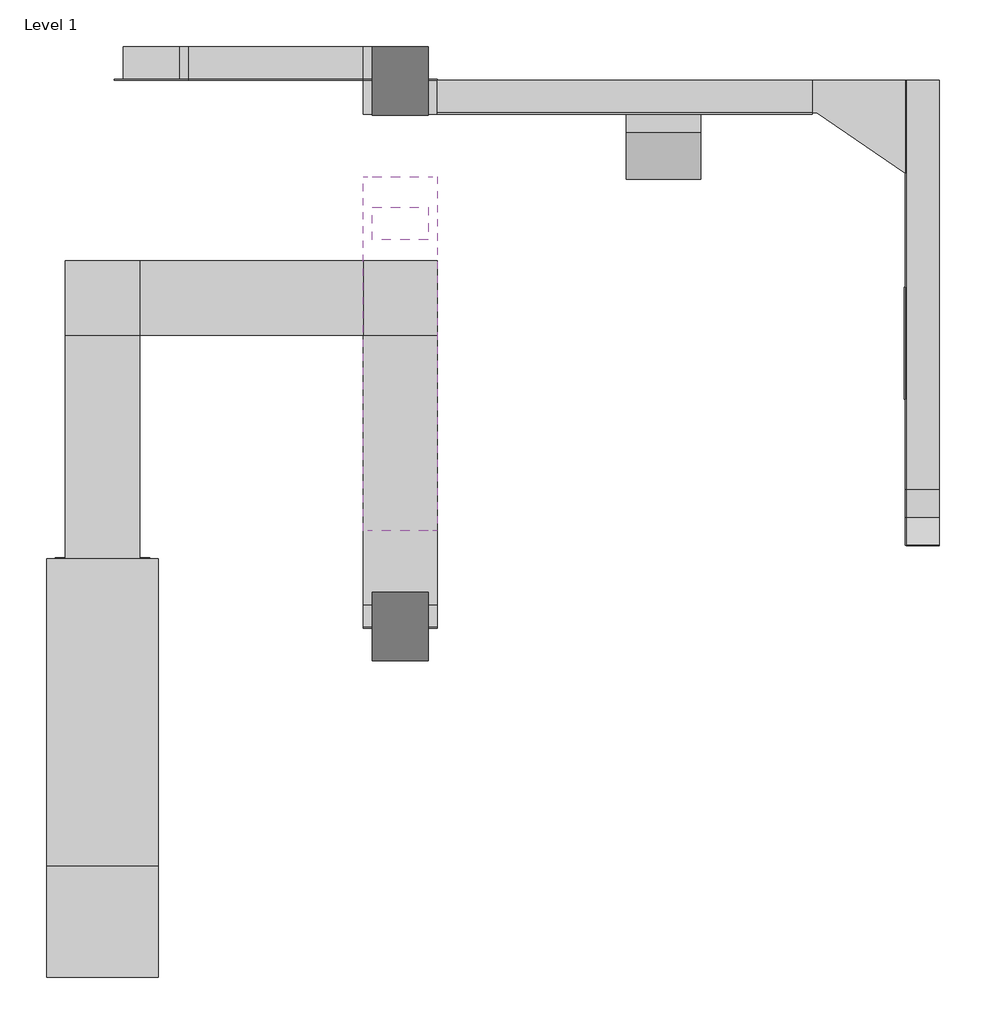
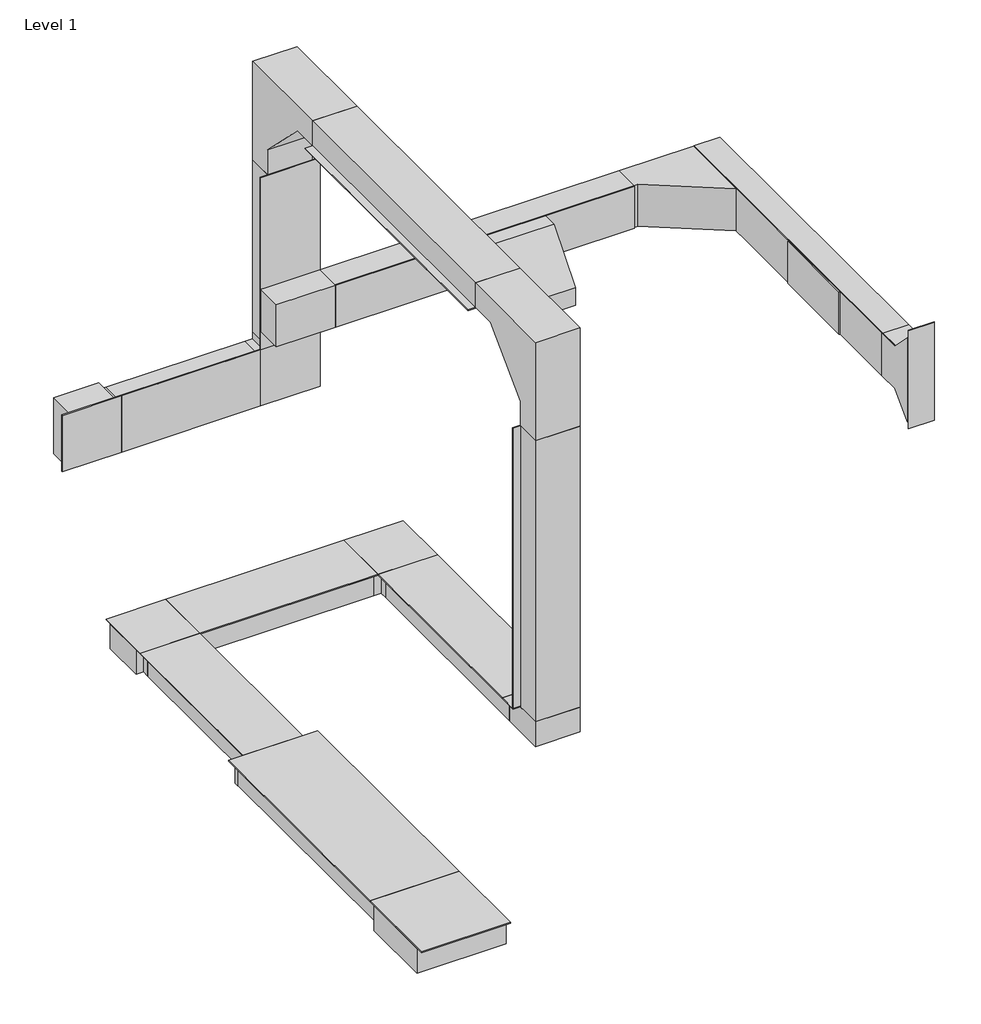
# One storey, incomplete: 25 proxies.
"""IFC4 building model written with IfcOpenShell, lengths in millimetres."""

from ifc_helpers import new_model, si_unit, origin, place, context, project, spatial, transform, mapped, element, save
from components import proxy_1bb0423d, proxy_10d260a6, proxy_3112c845, proxy_9fd47af2, proxy_4c77f4b0, proxy_b54416c3, proxy_b5014839, proxy_89a9898e, proxy_f1630dbc, proxy_a396cd5e, proxy_0430b9dc, proxy_dae3a1b6, proxy_4c7fc27a, proxy_f84e95d0, proxy_1b58b07c, proxy_b5122c49, proxy_e8817ffa, proxy_f1c07713, proxy_dc11ac28, proxy_295c4e63, proxy_0f081905, proxy_846f6db0

model = new_model("IFC4")

# Units and contexts
model_context = context("Model", 3, world=origin())
ifc_project = project(units=[si_unit("LENGTHUNIT", "METRE", prefix="MILLI")], contexts=[model_context])

# Site, building, storey
site = spatial("IfcSite", under=ifc_project)
building = spatial("IfcBuilding", under=site)
storey = spatial("IfcBuildingStorey", under=building, Name="Level 1", Elevation=0.0)

# Proxies
placement = place(None, origin())
proxy_shape = proxy_1bb0423d(model_context)
element("IfcBuildingElementProxy", 1, Name="Reducer-Wallduct-Wiremold : 10 to 6\", Center", ObjectType="Reducer-Wallduct-Wiremold : 10 to 6\", Center", at=placement, inside=storey, context=model_context, shape_type="MappedRepresentation", body=[
    mapped(proxy_shape, transform((4349.909469, -961.8710211, -47.625), x_axis=(-1.0, 0.0, 0.0), y_axis=(0.0, 0.0, 1.0), z_axis=(0.0, 1.0, 0.0))),
])
proxy_2_shape = proxy_10d260a6(model_context)
element("IfcBuildingElementProxy", 2, Name="Duct-Wallduct-Wiremold : 10\" Wide", ObjectType="Duct-Wallduct-Wiremold : 10\" Wide", at=placement, inside=storey, context=model_context, shape_type="MappedRepresentation", body=[
    mapped(proxy_2_shape, transform((4349.909469, -1800.0710211, 0.0), x_axis=(0.0, 1.0, 0.0), y_axis=(-1.0, 0.0, 0.0), z_axis=(0.0, 0.0, 1.0))),
])
proxy_3_shape = proxy_3112c845(model_context)
element("IfcBuildingElementProxy", 3, Name="Tee_Unit-Wallduct-Wiremold : 10\" Width", ObjectType="Tee_Unit-Wallduct-Wiremold : 10\" Width", at=placement, inside=storey, context=model_context, shape_type="MappedRepresentation", body=[
    mapped(proxy_3_shape, transform((4349.909469, -1952.4710211, 0.0), x_axis=(0.0, 1.0, 0.0), y_axis=(-1.0, 0.0, 0.0), z_axis=(0.0, 0.0, 1.0))),
])
proxy_4_shape = proxy_9fd47af2(model_context)
element("IfcBuildingElementProxy", 4, Name="Elbow-Wallduct-Wiremold-Vertical : 6\" Inside", ObjectType="Elbow-Wallduct-Wiremold-Vertical : 6\" Inside", at=placement, inside=storey, context=model_context, shape_type="MappedRepresentation", body=[
    mapped(proxy_4_shape, transform((5162.709469, -1088.8710211, -47.625), x_axis=(-1.0, 0.0, 0.0), y_axis=(0.0, 0.0, -1.0), z_axis=(0.0, -1.0, 0.0))),
])
proxy_5_shape = proxy_4c77f4b0(model_context)
element("IfcBuildingElementProxy", 5, Name="Duct-Wallduct-Wiremold : 6\" Wide", ObjectType="Duct-Wallduct-Wiremold : 6\" Wide", at=placement, inside=storey, context=model_context, shape_type="MappedRepresentation", body=[
    mapped(proxy_5_shape, transform((4451.509469, -250.6710211, 0.0), x_axis=(1.0, 0.0, 0.0), y_axis=(0.0, 1.0, 0.0), z_axis=(0.0, 0.0, 1.0))),
])
element("IfcBuildingElementProxy", 6, Name="Duct-Wallduct-Wiremold : 6\" Wide", ObjectType="Duct-Wallduct-Wiremold : 6\" Wide", at=placement, inside=storey, context=model_context, shape_type="MappedRepresentation", body=[
    mapped(proxy_5_shape, transform((4349.909469, -352.2710211, 0.0), x_axis=(0.0, -1.0, 0.0), y_axis=(1.0, 0.0, 0.0), z_axis=(0.0, 0.0, 1.0))),
])
proxy_6_shape = proxy_b54416c3(model_context)
element("IfcBuildingElementProxy", 7, Name="Duct-Wallduct-Wiremold : 6\" Wide", ObjectType="Duct-Wallduct-Wiremold : 6\" Wide", at=placement, inside=storey, context=model_context, shape_type="MappedRepresentation", body=[
    mapped(proxy_6_shape, transform((5162.709469, -352.2710211, 0.0), x_axis=(0.0, -1.0, 0.0), y_axis=(1.0, 0.0, 0.0), z_axis=(0.0, 0.0, 1.0))),
])
proxy_7_shape = proxy_b5014839(model_context)
element("IfcBuildingElementProxy", 8, Name="Duct-Wallduct-Wiremold : 6\" Wide", ObjectType="Duct-Wallduct-Wiremold : 6\" Wide", at=placement, inside=storey, context=model_context, shape_type="MappedRepresentation", body=[
    mapped(proxy_7_shape, transform((5162.709469, -1149.1960211, -3.175), x_axis=(0.0, 0.0, 1.0), y_axis=(1.0, 0.0, 0.0), z_axis=(0.0, 1.0, 0.0))),
])
proxy_8_shape = proxy_89a9898e(model_context)
element("IfcBuildingElementProxy", 9, Name="Duct-Wallduct-Wiremold : 6\" Wide", ObjectType="Duct-Wallduct-Wiremold : 6\" Wide", at=placement, inside=storey, context=model_context, shape_type="MappedRepresentation", body=[
    mapped(proxy_8_shape, transform((5162.709469, -885.6710211, 1276.35), x_axis=(0.0, 1.0, 0.0), y_axis=(1.0, 0.0, 0.0), z_axis=(0.0, 0.0, -1.0))),
])
proxy_9_shape = proxy_f1630dbc(model_context)
element("IfcBuildingElementProxy", 10, Name="Duct-Wallduct-Wiremold : 6\" Wide", ObjectType="Duct-Wallduct-Wiremold : 6\" Wide", at=placement, inside=storey, context=model_context, shape_type="MappedRepresentation", body=[
    mapped(proxy_9_shape, transform((5162.709469, 343.0539789, 1012.825), x_axis=(0.0, 0.0, -1.0), y_axis=(1.0, 0.0, 0.0), z_axis=(0.0, -1.0, 0.0))),
])
proxy_10_shape = proxy_a396cd5e(model_context)
element("IfcBuildingElementProxy", 11, Name="Duct-Wallduct-Wiremold : 6\" Wide", ObjectType="Duct-Wallduct-Wiremold : 6\" Wide", at=placement, inside=storey, context=model_context, shape_type="MappedRepresentation", body=[
    mapped(proxy_10_shape, transform((5264.309469, 343.0539789, 532.6601927), x_axis=(1.0, 0.0, 0.0), y_axis=(0.0, 0.0, 1.0), z_axis=(0.0, -1.0, 0.0))),
])
proxy_11_shape = proxy_0430b9dc(model_context)
element("IfcBuildingElementProxy", 12, Name="Duct-Wallduct-Wiremold : 6\" Wide", ObjectType="Duct-Wallduct-Wiremold : 6\" Wide", at=placement, inside=storey, context=model_context, shape_type="MappedRepresentation", body=[
    mapped(proxy_11_shape, transform((6632.94707, 343.0539789, 532.6601927), x_axis=(0.0, -1.0, 0.0), y_axis=(0.0, 0.0, 1.0), z_axis=(-1.0, 0.0, 0.0))),
])
proxy_12_shape = proxy_dae3a1b6(model_context)
element("IfcBuildingElementProxy", 13, Name="Duct-Wallduct-Wiremold : 6\" Wide", ObjectType="Duct-Wallduct-Wiremold : 6\" Wide", at=placement, inside=storey, context=model_context, shape_type="MappedRepresentation", body=[
    mapped(proxy_12_shape, transform((5061.109469, 343.0539789, 288.925), x_axis=(-1.0, 0.0, 0.0), y_axis=(0.0, 0.0, -1.0), z_axis=(0.0, -1.0, 0.0))),
])
proxy_13_shape = proxy_4c7fc27a(model_context)
element("IfcBuildingElementProxy", 14, Name="Elbow-Wallduct-Wiremold-Vertical-Sweep : 6\" Width", ObjectType="Elbow-Wallduct-Wiremold-Vertical-Sweep : 6\" Width", at=placement, inside=storey, context=model_context, shape_type="MappedRepresentation", body=[
    mapped(proxy_13_shape, transform((5162.709469, -1196.8210211, 1012.825), x_axis=(-1.0, 0.0, 0.0), y_axis=(0.0, -1.0, 0.0), z_axis=(0.0, 0.0, 1.0))),
])
element("IfcBuildingElementProxy", 15, Name="Elbow-Wallduct-Wiremold-Vertical-Sweep : 6\" Width", ObjectType="Elbow-Wallduct-Wiremold-Vertical-Sweep : 6\" Width", at=placement, inside=storey, context=model_context, shape_type="MappedRepresentation", body=[
    mapped(proxy_13_shape, transform((5162.709469, 79.5289789, 1323.975), x_axis=(-1.0, 0.0, 0.0), y_axis=(0.0, 0.0, 1.0), z_axis=(0.0, 1.0, 0.0))),
])
proxy_14_shape = proxy_f84e95d0(model_context)
element("IfcBuildingElementProxy", 16, Name="Cabinet_Connector-Wallduct-Wiremold : 6\" Width", ObjectType="Cabinet_Connector-Wallduct-Wiremold : 6\" Width", at=placement, inside=storey, context=model_context, shape_type="MappedRepresentation", body=[
    mapped(proxy_14_shape, transform((5880.47207, 250.9789789, 532.4513345), x_axis=(0.0, 0.0, -1.0), y_axis=(1.0, 0.0, 0.0), z_axis=(0.0, -1.0, 0.0))),
])
proxy_15_shape = proxy_1b58b07c(model_context)
element("IfcBuildingElementProxy", 17, Name="Transition-Wallduct-Wiremold : 6\" Width", ObjectType="Transition-Wallduct-Wiremold : 6\" Width", at=placement, inside=storey, context=model_context, shape_type="MappedRepresentation", body=[
    mapped(proxy_15_shape, transform((5162.709469, 343.0539789, 532.6601927), x_axis=(-1.0, 0.0, 0.0), y_axis=(0.0, 0.0, -1.0), z_axis=(0.0, -1.0, 0.0))),
])
proxy_16_shape = proxy_b5122c49(model_context)
element("IfcBuildingElementProxy", 18, Name="Cover_Plate-Wallduct-Wiremold : 6\" Width", ObjectType="Cover_Plate-Wallduct-Wiremold : 6\" Width", at=placement, inside=storey, context=model_context, shape_type="MappedRepresentation", body=[
    mapped(proxy_16_shape, transform((6540.87207, -374.4960211, 532.6601927), x_axis=(0.0, 0.0, -1.0), y_axis=(0.0, -1.0, 0.0), z_axis=(-1.0, 0.0, 0.0))),
])
proxy_17_shape = proxy_e8817ffa(model_context)
element("IfcBuildingElementProxy", 19, Name="Tee-Wallduct-Wiremold-Sweep : 6\" Width", ObjectType="Tee-Wallduct-Wiremold-Sweep : 6\" Width", at=placement, inside=storey, context=model_context, shape_type="MappedRepresentation", body=[
    mapped(proxy_17_shape, transform((6286.87207, 298.6039789, 532.6601927), x_axis=(0.0, 0.0, -1.0), y_axis=(0.0, 1.0, 0.0), z_axis=(1.0, 0.0, 0.0))),
])
proxy_18_shape = proxy_f1c07713(model_context)
element("IfcBuildingElementProxy", 20, Name="Cabinet_Connector-Wallduct-Wiremold-Drop_Out : 6\" Width", ObjectType="Cabinet_Connector-Wallduct-Wiremold-Drop_Out : 6\" Width", at=placement, inside=storey, context=model_context, shape_type="MappedRepresentation", body=[
    mapped(proxy_18_shape, transform((5162.709469, -47.4710211, 1276.35), x_axis=(-1.0, 0.0, 0.0), y_axis=(0.0, 1.0, 0.0), z_axis=(0.0, 0.0, -1.0))),
])
proxy_19_shape = proxy_dc11ac28(model_context)
element("IfcBuildingElementProxy", 21, Name="Cabinet_Connector-Wallduct-Wiremold-Flanged : 6\" Width", ObjectType="Cabinet_Connector-Wallduct-Wiremold-Flanged : 6\" Width", at=placement, inside=storey, context=model_context, shape_type="MappedRepresentation", body=[
    mapped(proxy_19_shape, transform((6588.49707, -774.5460211, 532.6601927), x_axis=(0.0, 0.0, -1.0), y_axis=(1.0, 0.0, 0.0), z_axis=(0.0, -1.0, 0.0))),
])
proxy_20_shape = proxy_295c4e63(model_context)
element("IfcBuildingElementProxy", 22, Name="Elbow-Wallduct-Wiremold-Horizontal : 6\" Width", ObjectType="Elbow-Wallduct-Wiremold-Horizontal : 6\" Width", at=placement, inside=storey, context=model_context, shape_type="MappedRepresentation", body=[
    mapped(proxy_20_shape, transform((5061.109469, -250.6710211, 0.0), x_axis=(0.0, -1.0000000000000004, 0.0), y_axis=(1.0000000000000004, 0.0, 0.0), z_axis=(0.0, 0.0, 1.0))),
])
element("IfcBuildingElementProxy", 23, Name="Elbow-Wallduct-Wiremold-Horizontal : 6\" Width", ObjectType="Elbow-Wallduct-Wiremold-Horizontal : 6\" Width", at=placement, inside=storey, context=model_context, shape_type="MappedRepresentation", body=[
    mapped(proxy_20_shape, transform((5162.709469, 343.0539789, 390.525), x_axis=(-1.0, 0.0, 0.0), y_axis=(0.0, 0.0, -1.0), z_axis=(0.0, -1.0, 0.0))),
])
proxy_21_shape = proxy_0f081905(model_context)
element("IfcBuildingElementProxy", 24, Name="X_Unit-Wallduct-Wiremold : 6\" Width", ObjectType="X_Unit-Wallduct-Wiremold : 6\" Width", at=placement, inside=storey, context=model_context, shape_type="MappedRepresentation", body=[
    mapped(proxy_21_shape, transform((4349.909469, -250.6710211, 0.0), x_axis=(1.0, 0.0, 0.0), y_axis=(0.0, 1.0, 0.0), z_axis=(0.0, 0.0, 1.0))),
])
proxy_22_shape = proxy_846f6db0(model_context)
element("IfcBuildingElementProxy", 25, Name="Tee_Unit-Wallduct-Wiremold : 6\" Width", ObjectType="Tee_Unit-Wallduct-Wiremold : 6\" Width", at=placement, inside=storey, context=model_context, shape_type="MappedRepresentation", body=[
    mapped(proxy_22_shape, transform((4483.259469, 343.0539789, 288.925), x_axis=(1.0, 0.0, 0.0), y_axis=(0.0, 0.0, 1.0), z_axis=(0.0, -1.0, 0.0))),
])

save(model, "model.ifc")
